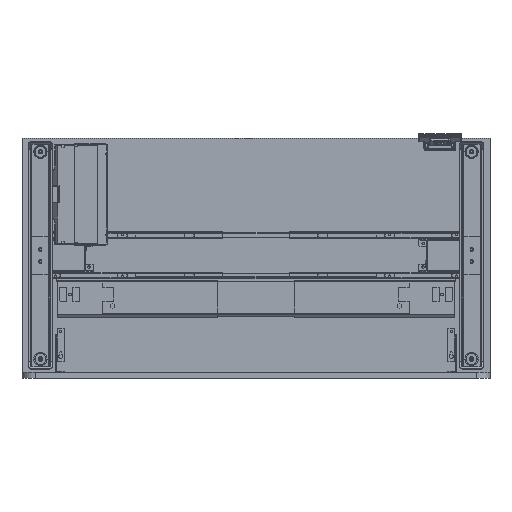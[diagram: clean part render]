
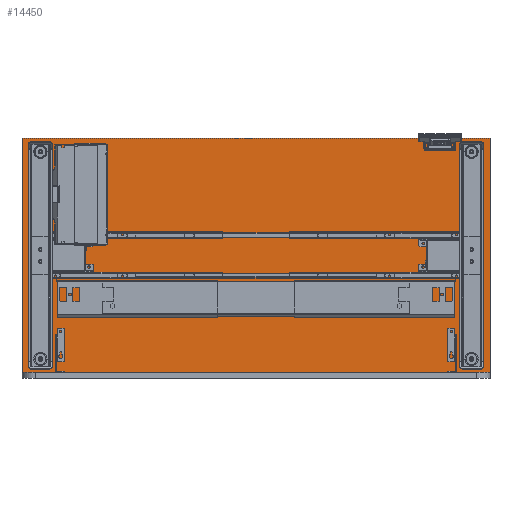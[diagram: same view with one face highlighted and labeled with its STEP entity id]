
A CAD part, front view. The second image highlights one B-rep face of the part: STEP entity #14450.
In plain terms, the highlighted planar face has unit normal (0, -1, 0).
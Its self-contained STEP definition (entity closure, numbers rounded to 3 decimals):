
#1865 = AXIS2_PLACEMENT_3D ( 'NONE', #187054, #69451, #87735 ) ;
#8662 = ORIENTED_EDGE ( 'NONE', *, *, #12444, .F. ) ;
#11739 = VECTOR ( 'NONE', #52091, 1000. ) ;
#12444 = EDGE_CURVE ( 'NONE', #146450, #99748, #109895, .T. ) ;
#13607 = CARTESIAN_POINT ( 'NONE',  ( -700., -12.5, 350. ) ) ;
#14450 = ADVANCED_FACE ( 'NONE', ( #75541 ), #85600, .F. ) ;
#14716 = VECTOR ( 'NONE', #60301, 1000. ) ;
#23837 = EDGE_CURVE ( 'NONE', #99748, #207358, #161462, .T. ) ;
#28531 = CARTESIAN_POINT ( 'NONE',  ( -700., -12.5, -350. ) ) ;
#29427 = ORIENTED_EDGE ( 'NONE', *, *, #23837, .F. ) ;
#43010 = CARTESIAN_POINT ( 'NONE',  ( -700., -12.5, -350. ) ) ;
#52091 = DIRECTION ( 'NONE',  ( -1., 0., 0. ) ) ;
#53139 = VERTEX_POINT ( 'NONE', #56483 ) ;
#56483 = CARTESIAN_POINT ( 'NONE',  ( 700., -12.5, -350. ) ) ;
#60301 = DIRECTION ( 'NONE',  ( 0., 0., 1. ) ) ;
#68280 = CARTESIAN_POINT ( 'NONE',  ( -700., -12.5, -350. ) ) ;
#69451 = DIRECTION ( 'NONE',  ( 0., 1., 0. ) ) ;
#75541 = FACE_OUTER_BOUND ( 'NONE', #185035, .T. ) ;
#79414 = DIRECTION ( 'NONE',  ( 1., 0., 0. ) ) ;
#85600 = PLANE ( 'NONE',  #1865 ) ;
#87735 = DIRECTION ( 'NONE',  ( 0., 0., 1. ) ) ;
#92746 = LINE ( 'NONE', #144522, #116913 ) ;
#93804 = DIRECTION ( 'NONE',  ( 0., 0., -1. ) ) ;
#99748 = VERTEX_POINT ( 'NONE', #199773 ) ;
#107013 = CARTESIAN_POINT ( 'NONE',  ( 700., -12.5, 350. ) ) ;
#109895 = LINE ( 'NONE', #43010, #14716 ) ;
#112756 = EDGE_CURVE ( 'NONE', #53139, #146450, #150270, .T. ) ;
#116913 = VECTOR ( 'NONE', #93804, 1000. ) ;
#139860 = VECTOR ( 'NONE', #79414, 1000. ) ;
#144522 = CARTESIAN_POINT ( 'NONE',  ( 700., -12.5, -350. ) ) ;
#146450 = VERTEX_POINT ( 'NONE', #28531 ) ;
#147315 = ORIENTED_EDGE ( 'NONE', *, *, #112756, .F. ) ;
#150270 = LINE ( 'NONE', #68280, #11739 ) ;
#161462 = LINE ( 'NONE', #13607, #139860 ) ;
#166072 = ORIENTED_EDGE ( 'NONE', *, *, #194409, .F. ) ;
#185035 = EDGE_LOOP ( 'NONE', ( #8662, #147315, #166072, #29427 ) ) ;
#187054 = CARTESIAN_POINT ( 'NONE',  ( 0., -12.5, 0. ) ) ;
#194409 = EDGE_CURVE ( 'NONE', #207358, #53139, #92746, .T. ) ;
#199773 = CARTESIAN_POINT ( 'NONE',  ( -700., -12.5, 350. ) ) ;
#207358 = VERTEX_POINT ( 'NONE', #107013 ) ;
